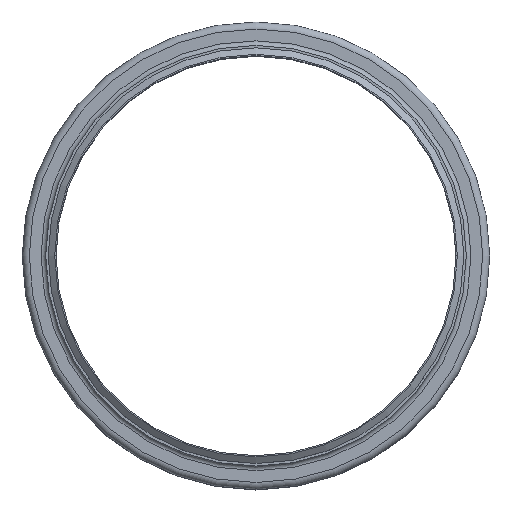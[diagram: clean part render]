
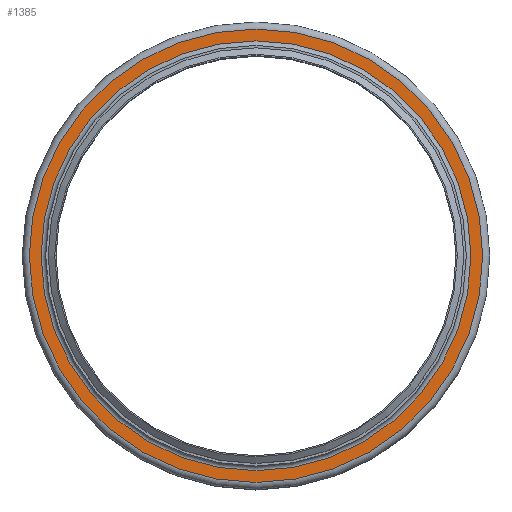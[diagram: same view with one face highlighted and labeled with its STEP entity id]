
A CAD part, top view. The second image highlights one B-rep face of the part: STEP entity #1385.
In plain terms, the highlighted planar face has unit normal (0, 0, 1).
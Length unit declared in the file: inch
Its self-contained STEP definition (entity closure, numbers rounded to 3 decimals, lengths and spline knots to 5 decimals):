
#155=FACE_BOUND('',#416,.T.);
#256=FACE_OUTER_BOUND('',#415,.T.);
#415=EDGE_LOOP('',(#1168));
#416=EDGE_LOOP('',(#1169));
#584=CIRCLE('',#1684,10.34125);
#585=CIRCLE('',#1686,10.90875);
#703=VERTEX_POINT('',#2631);
#704=VERTEX_POINT('',#2635);
#862=EDGE_CURVE('',#703,#703,#584,.T.);
#863=EDGE_CURVE('',#704,#704,#585,.T.);
#1168=ORIENTED_EDGE('',*,*,#863,.F.);
#1169=ORIENTED_EDGE('',*,*,#862,.T.);
#1284=PLANE('',#1685);
#1385=ADVANCED_FACE('',(#256,#155),#1284,.T.);
#1684=AXIS2_PLACEMENT_3D('',#2633,#2197,#2198);
#1685=AXIS2_PLACEMENT_3D('',#2634,#2199,#2200);
#1686=AXIS2_PLACEMENT_3D('',#2636,#2201,#2202);
#2197=DIRECTION('center_axis',(0.,0.,-1.));
#2198=DIRECTION('ref_axis',(1.,0.,0.));
#2199=DIRECTION('center_axis',(0.,0.,1.));
#2200=DIRECTION('ref_axis',(1.,0.,0.));
#2201=DIRECTION('center_axis',(0.,0.,-1.));
#2202=DIRECTION('ref_axis',(1.,0.,0.));
#2631=CARTESIAN_POINT('',(10.34125,0.,-0.22125));
#2633=CARTESIAN_POINT('Origin',(0.,0.,-0.22125));
#2634=CARTESIAN_POINT('Origin',(0.,10.90875,-0.22125));
#2635=CARTESIAN_POINT('',(10.90875,0.,-0.22125));
#2636=CARTESIAN_POINT('Origin',(0.,0.,-0.22125));
